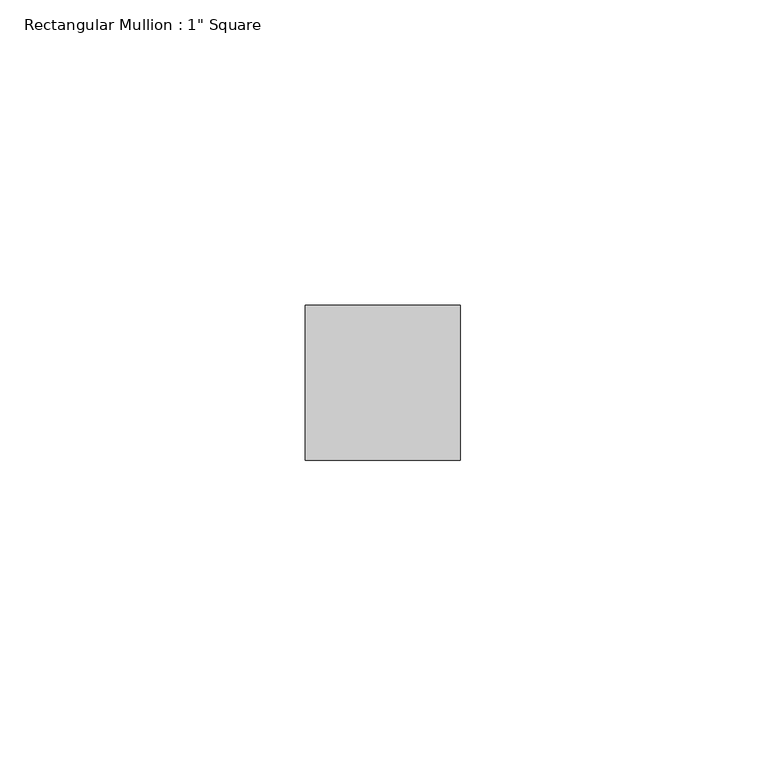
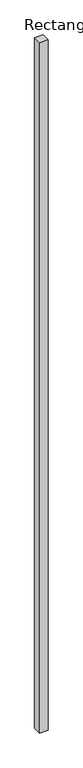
"""IFC4 building model written with IfcOpenShell, lengths in millimetres: member geometry."""

from ifc_helpers import new_model, si_unit, frame, origin, place, context, project, spatial, polyline, outline, extrude, source, transform, mapped, element, save


def member_af15374c(model_context):
    return source(origin(), model_context, "Body", "SweptSolid", [
        extrude(outline(polyline([(0.0, 12.7), (0.0, -12.7), (-25.4, -12.7), (-25.4, 12.7), (0.0, 12.7)])), frame((0.0, 0.0, -2169.5560111), z_axis=(0.0, 0.0, 1.0), x_axis=(1.0, 0.0, 0.0)), (0.0, 0.0, 1.0), 2169.5560111),
    ])


if __name__ == "__main__":
    model = new_model("IFC4")
    model_context = context("Model", 3, world=origin())
    ifc_project = project(units=[si_unit("LENGTHUNIT", "METRE", prefix="MILLI")], contexts=[model_context])
    site = spatial("IfcSite", under=ifc_project)
    building = spatial("IfcBuilding", under=site)
    placement = place(None, origin())
    member_shape = member_af15374c(model_context)
    element("IfcMember", 1, ObjectType="Rectangular Mullion : 1\" Square", at=placement, inside=building, context=model_context, shape_type="MappedRepresentation", body=[
        mapped(member_shape, transform((0.0, 0.0, 0.0), x_axis=(1.0, 0.0, 0.0), y_axis=(0.0, 1.0, 0.0), z_axis=(0.0, 0.0, 1.0))),
    ])
    save(model, "model.ifc")
